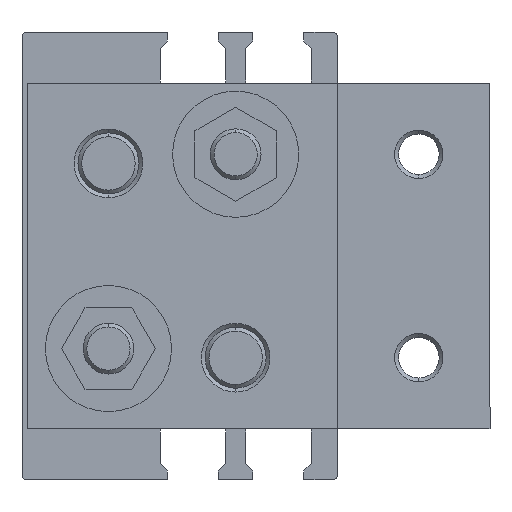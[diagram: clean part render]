
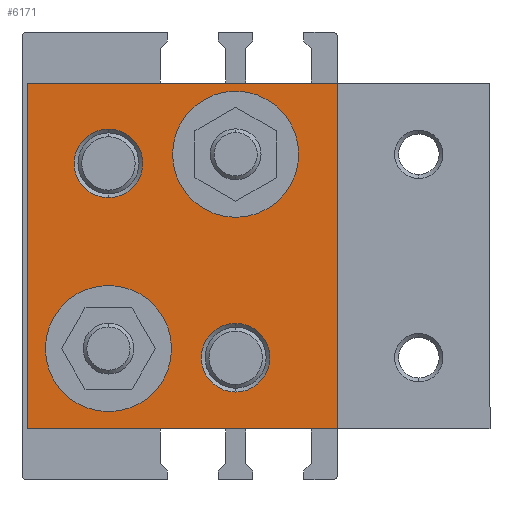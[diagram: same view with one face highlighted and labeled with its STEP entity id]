
A CAD part, left-side view. The second image highlights one B-rep face of the part: STEP entity #6171.
In plain terms, the highlighted planar face has unit normal (-1, 0, 0) as drawn and (1, 0, 0) by its records, which use the part's own axes.
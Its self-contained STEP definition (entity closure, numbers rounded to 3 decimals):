
#111 = VECTOR ( 'NONE', #1583, 1000. ) ;
#291 = LINE ( 'NONE', #7207, #6660 ) ;
#355 = CARTESIAN_POINT ( 'NONE',  ( 10., -14.2, 9.1 ) ) ;
#409 = VERTEX_POINT ( 'NONE', #2373 ) ;
#518 = ORIENTED_EDGE ( 'NONE', *, *, #7510, .F. ) ;
#547 = CARTESIAN_POINT ( 'NONE',  ( 10., 0., -17. ) ) ;
#579 = VERTEX_POINT ( 'NONE', #7099 ) ;
#584 = DIRECTION ( 'NONE',  ( 0., 0., -1. ) ) ;
#623 = VERTEX_POINT ( 'NONE', #547 ) ;
#679 = EDGE_CURVE ( 'NONE', #6217, #4628, #291, .T. ) ;
#895 = FACE_BOUND ( 'NONE', #1215, .T. ) ;
#1031 = CARTESIAN_POINT ( 'NONE',  ( 10., -8., -5.725 ) ) ;
#1097 = DIRECTION ( 'NONE',  ( 1., 0., 0. ) ) ;
#1161 = CARTESIAN_POINT ( 'NONE',  ( 10., -1.8, 9.1 ) ) ;
#1196 = VECTOR ( 'NONE', #7050, 1000. ) ;
#1215 = EDGE_LOOP ( 'NONE', ( #7270, #5470 ) ) ;
#1341 = AXIS2_PLACEMENT_3D ( 'NONE', #4729, #1097, #5324 ) ;
#1491 = EDGE_CURVE ( 'NONE', #2549, #409, #7482, .T. ) ;
#1583 = DIRECTION ( 'NONE',  ( 0., -1., 0. ) ) ;
#1606 = CARTESIAN_POINT ( 'NONE',  ( 10., -20.5, -10. ) ) ;
#1631 = EDGE_CURVE ( 'NONE', #623, #4628, #6484, .T. ) ;
#1672 = VERTEX_POINT ( 'NONE', #1031 ) ;
#1689 = EDGE_LOOP ( 'NONE', ( #6108, #518 ) ) ;
#1878 = CARTESIAN_POINT ( 'NONE',  ( 10., -30.5, -17. ) ) ;
#1897 = VECTOR ( 'NONE', #1915, 1000. ) ;
#1915 = DIRECTION ( 'NONE',  ( 0., -1., 0. ) ) ;
#1919 = CIRCLE ( 'NONE', #3715, 6.2 ) ;
#1920 = DIRECTION ( 'NONE',  ( 1., 0., 0. ) ) ;
#2000 = CARTESIAN_POINT ( 'NONE',  ( 10., -20.5, 10. ) ) ;
#2005 = VERTEX_POINT ( 'NONE', #355 ) ;
#2096 = CARTESIAN_POINT ( 'NONE',  ( 10., 0., 17. ) ) ;
#2162 = AXIS2_PLACEMENT_3D ( 'NONE', #5523, #1920, #6125 ) ;
#2220 = DIRECTION ( 'NONE',  ( 0., 1., 0. ) ) ;
#2318 = FACE_BOUND ( 'NONE', #1689, .T. ) ;
#2373 = CARTESIAN_POINT ( 'NONE',  ( 10., -14.3, -10. ) ) ;
#2499 = EDGE_CURVE ( 'NONE', #5028, #579, #3698, .T. ) ;
#2540 = CARTESIAN_POINT ( 'NONE',  ( 10., -8., -12.475 ) ) ;
#2549 = VERTEX_POINT ( 'NONE', #2671 ) ;
#2571 = CARTESIAN_POINT ( 'NONE',  ( 10., -8., -9.1 ) ) ;
#2617 = DIRECTION ( 'NONE',  ( 0., 0., -1. ) ) ;
#2671 = CARTESIAN_POINT ( 'NONE',  ( 10., -26.7, -10. ) ) ;
#2717 = CIRCLE ( 'NONE', #2162, 3.375 ) ;
#2739 = CARTESIAN_POINT ( 'NONE',  ( 10., -8., 9.1 ) ) ;
#2877 = CARTESIAN_POINT ( 'NONE',  ( 10., 0., 17. ) ) ;
#3048 = DIRECTION ( 'NONE',  ( 0., 0., -1. ) ) ;
#3103 = AXIS2_PLACEMENT_3D ( 'NONE', #7781, #4216, #584 ) ;
#3187 = DIRECTION ( 'NONE',  ( 0., 0., -1. ) ) ;
#3252 = CARTESIAN_POINT ( 'NONE',  ( 10., -8., 9.1 ) ) ;
#3299 = DIRECTION ( 'NONE',  ( 0., 0., 1. ) ) ;
#3355 = DIRECTION ( 'NONE',  ( 0., 1., 0. ) ) ;
#3524 = LINE ( 'NONE', #4319, #1897 ) ;
#3534 = CARTESIAN_POINT ( 'NONE',  ( 10., -20.5, 6.625 ) ) ;
#3698 = CIRCLE ( 'NONE', #7335, 3.375 ) ;
#3715 = AXIS2_PLACEMENT_3D ( 'NONE', #3252, #7414, #3861 ) ;
#3747 = ORIENTED_EDGE ( 'NONE', *, *, #5625, .F. ) ;
#3762 = FACE_BOUND ( 'NONE', #3876, .T. ) ;
#3805 = CIRCLE ( 'NONE', #5796, 6.2 ) ;
#3840 = EDGE_CURVE ( 'NONE', #5861, #6217, #3524, .T. ) ;
#3861 = DIRECTION ( 'NONE',  ( 0., 1., 0. ) ) ;
#3876 = EDGE_LOOP ( 'NONE', ( #6124, #4595 ) ) ;
#4055 = LINE ( 'NONE', #2877, #1196 ) ;
#4085 = EDGE_CURVE ( 'NONE', #7314, #2005, #3805, .T. ) ;
#4216 = DIRECTION ( 'NONE',  ( 1., 0., 0. ) ) ;
#4319 = CARTESIAN_POINT ( 'NONE',  ( 10., 0., 17. ) ) ;
#4484 = EDGE_CURVE ( 'NONE', #1672, #4744, #4809, .T. ) ;
#4535 = CARTESIAN_POINT ( 'NONE',  ( 10., -30.5, 17. ) ) ;
#4595 = ORIENTED_EDGE ( 'NONE', *, *, #4484, .F. ) ;
#4628 = VERTEX_POINT ( 'NONE', #1878 ) ;
#4680 = EDGE_CURVE ( 'NONE', #4744, #1672, #6838, .T. ) ;
#4729 = CARTESIAN_POINT ( 'NONE',  ( 10., -20.5, -10. ) ) ;
#4744 = VERTEX_POINT ( 'NONE', #2540 ) ;
#4809 = CIRCLE ( 'NONE', #3103, 3.375 ) ;
#4982 = EDGE_CURVE ( 'NONE', #623, #5861, #4055, .T. ) ;
#5028 = VERTEX_POINT ( 'NONE', #3534 ) ;
#5324 = DIRECTION ( 'NONE',  ( 0., 1., 0. ) ) ;
#5340 = FACE_BOUND ( 'NONE', #6779, .T. ) ;
#5470 = ORIENTED_EDGE ( 'NONE', *, *, #1491, .F. ) ;
#5523 = CARTESIAN_POINT ( 'NONE',  ( 10., -20.5, 10. ) ) ;
#5593 = AXIS2_PLACEMENT_3D ( 'NONE', #1606, #5814, #2220 ) ;
#5625 = EDGE_CURVE ( 'NONE', #579, #5028, #2717, .T. ) ;
#5796 = AXIS2_PLACEMENT_3D ( 'NONE', #2739, #6896, #3355 ) ;
#5803 = EDGE_LOOP ( 'NONE', ( #7528, #7201, #6485, #6606 ) ) ;
#5814 = DIRECTION ( 'NONE',  ( 1., 0., 0. ) ) ;
#5861 = VERTEX_POINT ( 'NONE', #2096 ) ;
#6108 = ORIENTED_EDGE ( 'NONE', *, *, #4085, .F. ) ;
#6124 = ORIENTED_EDGE ( 'NONE', *, *, #4680, .F. ) ;
#6125 = DIRECTION ( 'NONE',  ( 0., 0., -1. ) ) ;
#6147 = CIRCLE ( 'NONE', #5593, 6.2 ) ;
#6171 = ADVANCED_FACE ( 'NONE', ( #6899, #2318, #895, #5340, #3762 ), #6258, .F. ) ;
#6199 = DIRECTION ( 'NONE',  ( 1., 0., 0. ) ) ;
#6217 = VERTEX_POINT ( 'NONE', #4535 ) ;
#6258 = PLANE ( 'NONE',  #6294 ) ;
#6294 = AXIS2_PLACEMENT_3D ( 'NONE', #7437, #6858, #3299 ) ;
#6384 = ORIENTED_EDGE ( 'NONE', *, *, #2499, .F. ) ;
#6484 = LINE ( 'NONE', #7590, #111 ) ;
#6485 = ORIENTED_EDGE ( 'NONE', *, *, #679, .T. ) ;
#6606 = ORIENTED_EDGE ( 'NONE', *, *, #1631, .F. ) ;
#6660 = VECTOR ( 'NONE', #3048, 1000. ) ;
#6746 = DIRECTION ( 'NONE',  ( 1., 0., 0. ) ) ;
#6779 = EDGE_LOOP ( 'NONE', ( #6384, #3747 ) ) ;
#6838 = CIRCLE ( 'NONE', #7495, 3.375 ) ;
#6858 = DIRECTION ( 'NONE',  ( -1., 0., 0. ) ) ;
#6896 = DIRECTION ( 'NONE',  ( 1., 0., 0. ) ) ;
#6899 = FACE_OUTER_BOUND ( 'NONE', #5803, .T. ) ;
#7050 = DIRECTION ( 'NONE',  ( 0., 0., 1. ) ) ;
#7099 = CARTESIAN_POINT ( 'NONE',  ( 10., -20.5, 13.375 ) ) ;
#7159 = EDGE_CURVE ( 'NONE', #409, #2549, #6147, .T. ) ;
#7201 = ORIENTED_EDGE ( 'NONE', *, *, #3840, .T. ) ;
#7207 = CARTESIAN_POINT ( 'NONE',  ( 10., -30.5, 17. ) ) ;
#7270 = ORIENTED_EDGE ( 'NONE', *, *, #7159, .F. ) ;
#7314 = VERTEX_POINT ( 'NONE', #1161 ) ;
#7335 = AXIS2_PLACEMENT_3D ( 'NONE', #2000, #6199, #2617 ) ;
#7414 = DIRECTION ( 'NONE',  ( 1., 0., 0. ) ) ;
#7437 = CARTESIAN_POINT ( 'NONE',  ( 10., -30.5, 17. ) ) ;
#7482 = CIRCLE ( 'NONE', #1341, 6.2 ) ;
#7495 = AXIS2_PLACEMENT_3D ( 'NONE', #2571, #6746, #3187 ) ;
#7510 = EDGE_CURVE ( 'NONE', #2005, #7314, #1919, .T. ) ;
#7528 = ORIENTED_EDGE ( 'NONE', *, *, #4982, .T. ) ;
#7590 = CARTESIAN_POINT ( 'NONE',  ( 10., 0., -17. ) ) ;
#7781 = CARTESIAN_POINT ( 'NONE',  ( 10., -8., -9.1 ) ) ;
